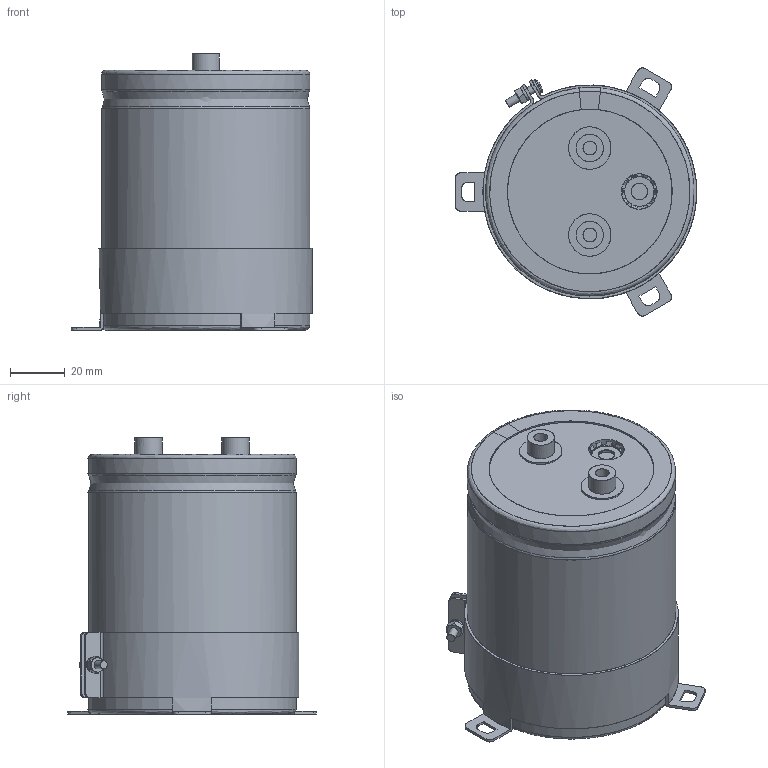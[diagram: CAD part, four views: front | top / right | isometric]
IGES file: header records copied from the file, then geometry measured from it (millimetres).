
Start section: JAMA-IS VERSION  1.0
Bounding box: 88.3 x 90.75 x 101 mm (x, y, z)
Surface area: 98579.7 mm2 (no closed solid volume)
Topology: 0 solids, 0 shells, 259 faces, 4448 edges, 4417 vertices
Faces by surface type: bspline 259
